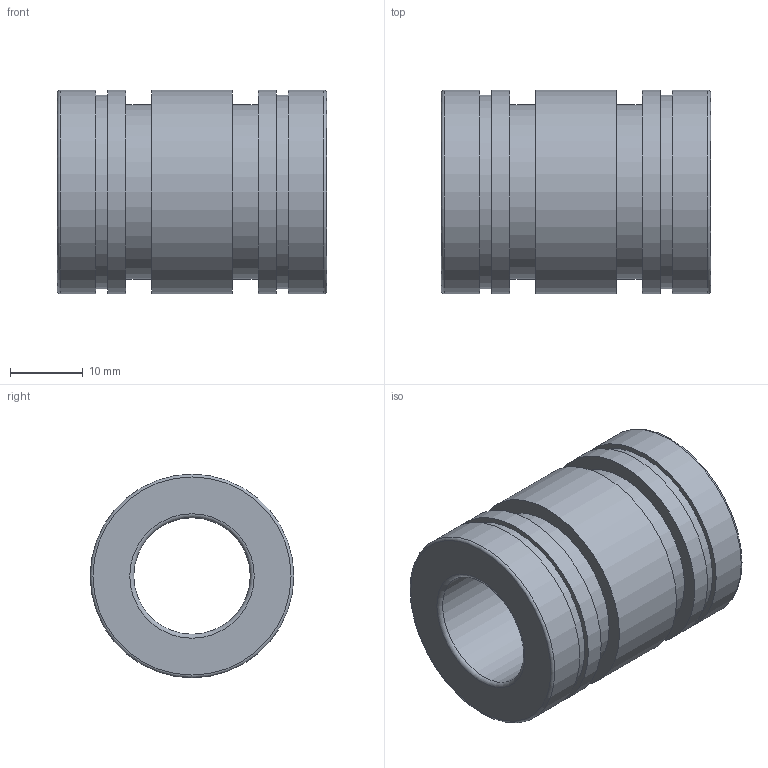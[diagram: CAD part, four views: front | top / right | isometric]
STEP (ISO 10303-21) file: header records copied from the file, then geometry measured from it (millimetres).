
FILE_DESCRIPTION(('STEP AP203'),'1');
FILE_NAME('//192.168.1.1/share/s-4 技術開発/s-4-4_CAD/s-4-4-3_見直し済み/PBC LINEAR修正済み/3D途中/FJ/FJ16.step','2022-03-24T06:58:04',(' '),(' '),'Spatial InterOp 3D',' ',' ');
FILE_SCHEMA(('CONFIG_CONTROL_DESIGN'));
Length unit declared in the file: millimetre
Products named in the file (1): 1
Bounding box: 37 x 28 x 28 mm (x, y, z)
Volume: 13965.4 mm3; surface area: 6683.7 mm2
Topology: 1 solids, 1 shells, 24 faces, 38 edges, 24 vertices
Faces by surface type: cylinder 10, plane 10, torus 4
Full cylindrical faces by diameter (mm): 16 x1, 23.978 x2, 26.6 x2, 28 x5
Entity records: 532 total; most frequent: DIRECTION 98, CARTESIAN_POINT 73, AXIS2_PLACEMENT_3D 49, EDGE_LOOP 48, ORIENTED_EDGE 48, FACE_OUTER_BOUND 38, ADVANCED_FACE 24, EDGE_CURVE 24
